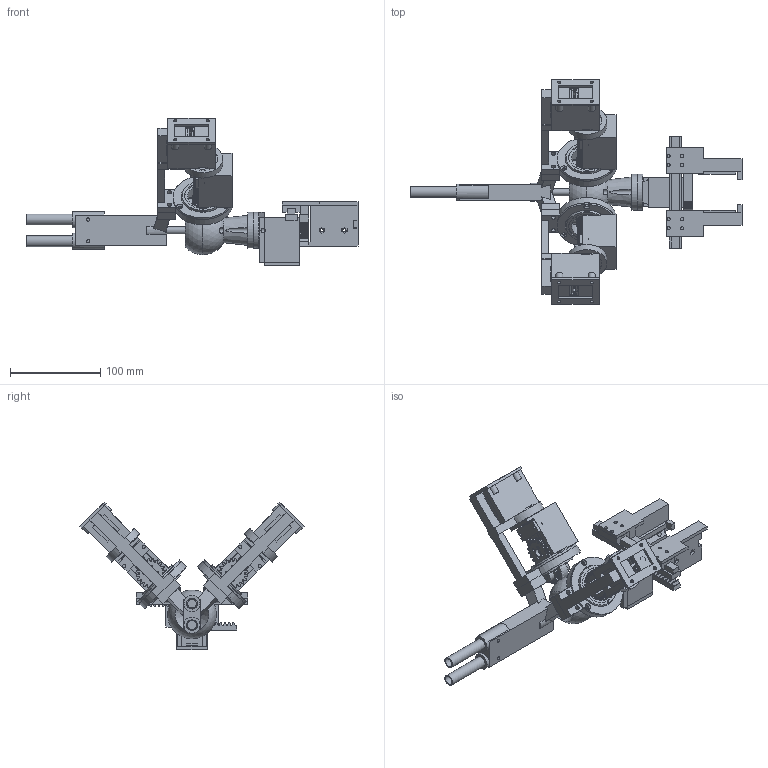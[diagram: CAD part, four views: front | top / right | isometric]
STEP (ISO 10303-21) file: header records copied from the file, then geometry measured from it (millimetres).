
FILE_DESCRIPTION(('Open CASCADE Model'),'2;1');
FILE_NAME('WRA1A_wrist_and_claw','2026-10-12T10:25:04',('Author'),( 'Open CASCADE'),'Open CASCADE STEP processor 8.0','build123d', 'Unknown');
FILE_SCHEMA(('AUTOMOTIVE_DESIGN { 1 0 10303 214 1 1 1 1 }'));
Length unit declared in the file: millimetre
Products named in the file (40): WRA1A_wrist_and_claw; cs_gear_front; cs_gear_back; abenics_housing; center_ball; module_frame_2; holder_retainer_2; q_cap_2; q_coupling_2; mp_fork_2; mp_cradle_2; cradle_strap_2; mp_spacer_2; theta_gear_2; monopole_2; claw_servo; bearing_6808_1; bearing_6805_1; bearing_688_10; bearing_688_11; mp_pin_1; bearing_6808_2; bearing_6805_2; bearing_688_20; bearing_688_21; mp_pin_2; abenics_post; tool_adapter; claw_palm; claw_cradle_cap; claw_pinion; claw_jaw_A; claw_jaw_B; claw_pad_A; claw_pad_B; claw_rail; claw_block_0; claw_block_1; fa_tube_0; fa_tube_1
Assembly tree (53 placements, depth 2):
  WRA1A_wrist_and_claw
    cs_gear_front
    cs_gear_back
    abenics_housing
    center_ball
    module_frame_2  x2
    holder_retainer_2  x2
    q_cap_2  x2
    q_coupling_2  x2
    mp_fork_2  x2
    mp_cradle_2  x2
    cradle_strap_2  x2
    mp_spacer_2  x2
    theta_gear_2  x2
    monopole_2  x2
    claw_servo  x5
    bearing_6808_1
    bearing_6805_1
    bearing_688_10
    bearing_688_11
    mp_pin_1
    bearing_6808_2
    bearing_6805_2
    bearing_688_20
    bearing_688_21
    mp_pin_2
    abenics_post
    tool_adapter
    claw_palm
    claw_cradle_cap
    claw_pinion
    claw_jaw_A
    claw_jaw_B
    claw_pad_A
    claw_pad_B
    claw_rail
    claw_block_0
    claw_block_1
    fa_tube_0
    fa_tube_1
Bounding box: 368 x 249.04 x 163.97 mm (x, y, z)
Volume: 733849.4 mm3; surface area: 332446.9 mm2
Topology: 53 solids, 53 shells, 4485 faces, 12398 edges, 8202 vertices
Faces by surface type: plane 3878, cylinder 513, torus 40, cone 37, bspline 10, sphere 7
Full cylindrical faces by diameter (mm): 1.5 x40, 1.8 x4, 2 x32, 2.5 x57, 2.55 x4, 2.95 x2, 3.05 x2, 3.5 x10, 3.55 x58, 3.95 x1, 4 x24, 4.1 x1, 4.65 x5, 4.8 x5, 5 x1, 5.6 x4, 6 x25, 6.2 x8, 6.5 x5, 7 x3, 7.95 x3, 8 x8, 8.05 x4, 8.1 x1, 8.2 x2, 8.6 x1, 9 x8, 10 x3, 10.5 x4, 11 x2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
Entity records: 178857 total; most frequent: CARTESIAN_POINT 41128, DIRECTION 24233, LINE 17119, VECTOR 17119, ORIENTED_EDGE 13764, PCURVE 13764, DEFINITIONAL_REPRESENTATION 13764, EDGE_CURVE 6882
